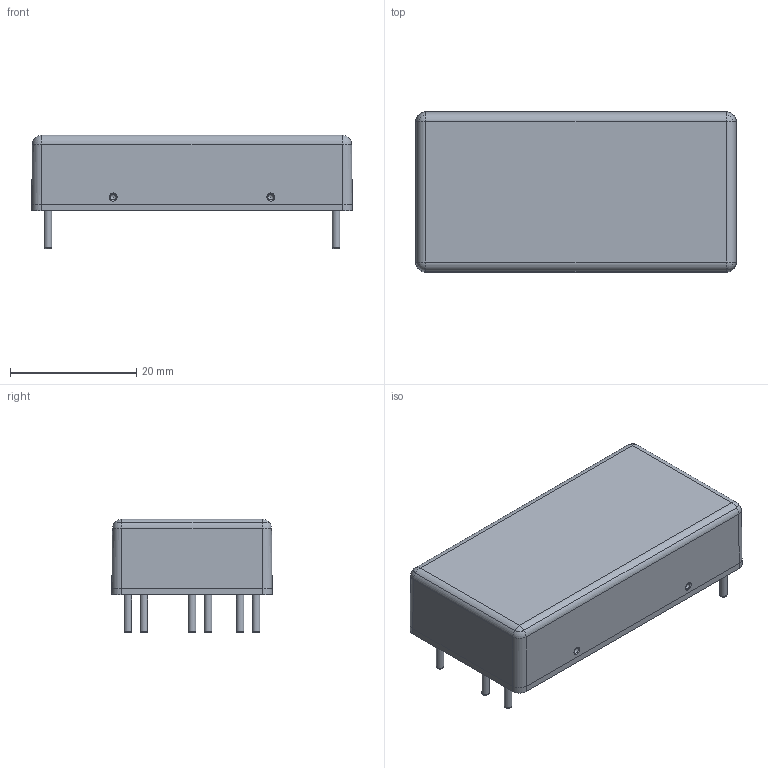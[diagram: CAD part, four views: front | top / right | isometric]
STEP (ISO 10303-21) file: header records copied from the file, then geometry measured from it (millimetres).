
FILE_DESCRIPTION(/* description */ (''),/* implementation_level */ '2;1');
FILE_NAME(/* name */ 'D:\Inventor\3D Files\200508\ST50F.stp',/* time_stamp */ '2020-04-23T11:36:09+08:00',/* author */ ('peter'),/* organization */ (''),/* preprocessor_version */ 'ST-DEVELOPER v15.2',/* originating_system */ 'Autodesk Inventor 2014',/* authorisation */ '');
FILE_SCHEMA (('AUTOMOTIVE_DESIGN { 1 0 10303 214 3 1 1 }'));
Length unit declared in the file: millimetre
Products named in the file (1): ST50F for 3D
Bounding box: 50.8 x 25.4 x 18 mm (x, y, z)
Volume: 2744.1 mm3; surface area: 8574.6 mm2
Topology: 1 solids, 2 shells, 76 faces, 164 edges, 102 vertices
Faces by surface type: plane 26, cylinder 24, torus 10, sphere 8, bspline 8
Full cylindrical faces by diameter (mm): 1.2 x12
Entity records: 2035 total; most frequent: CARTESIAN_POINT 433, DIRECTION 342, ORIENTED_EDGE 260, AXIS2_PLACEMENT_3D 147, EDGE_CURVE 130, EDGE_LOOP 124, VERTEX_POINT 94, ADVANCED_FACE 76
